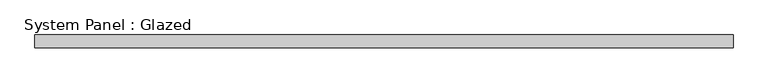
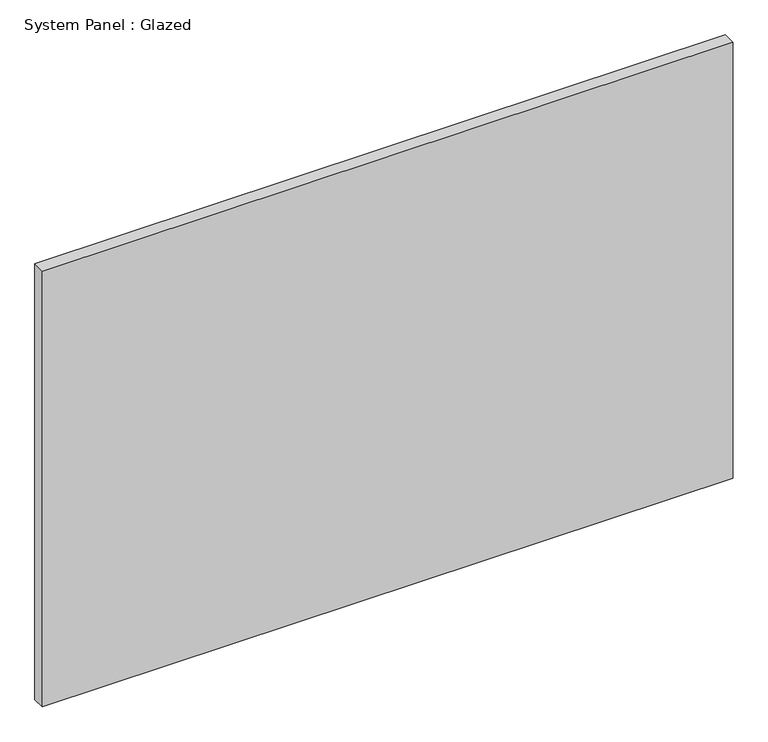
"""IFC4 building model written with IfcOpenShell, lengths in millimetres: plate geometry, System Panel : Glazed."""

from ifc_helpers import new_model, si_unit, origin, origin_with_axes, place, context, project, spatial, polyline, outline, extrude, source, transform, mapped, element, save


def system_panel_glazed_6071923d(model_context):
    return source(origin(), model_context, "Body", "SweptSolid", [
        extrude(outline(polyline([(685.4060559, 19.05), (-685.4060559, 19.05), (-685.4060559, 44.45), (685.4060559, 44.45), (685.4060559, 19.05)])), origin_with_axes(), (0.0, 0.0, 1.0), 914.4),
    ])


if __name__ == "__main__":
    model = new_model("IFC4")
    model_context = context("Model", 3, world=origin())
    ifc_project = project(units=[si_unit("LENGTHUNIT", "METRE", prefix="MILLI")], contexts=[model_context])
    site = spatial("IfcSite", under=ifc_project)
    building = spatial("IfcBuilding", under=site)
    placement = place(None, origin())
    system_panel_glazed_shape = system_panel_glazed_6071923d(model_context)
    element("IfcPlate", 1, ObjectType="System Panel : Glazed", at=placement, inside=building, context=model_context, shape_type="MappedRepresentation", body=[
        mapped(system_panel_glazed_shape, transform((0.0, 0.0, 0.0), x_axis=(1.0, 0.0, 0.0), y_axis=(0.0, 1.0, 0.0), z_axis=(0.0, 0.0, 1.0))),
    ])
    save(model, "model.ifc")
